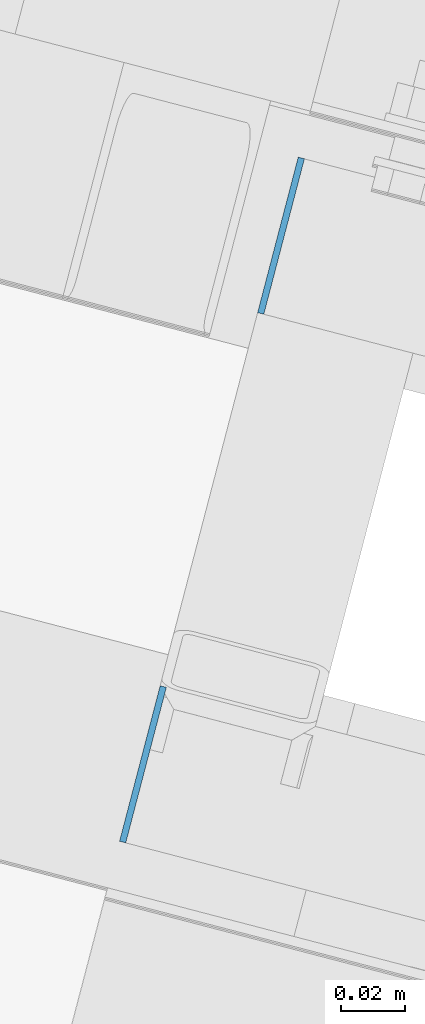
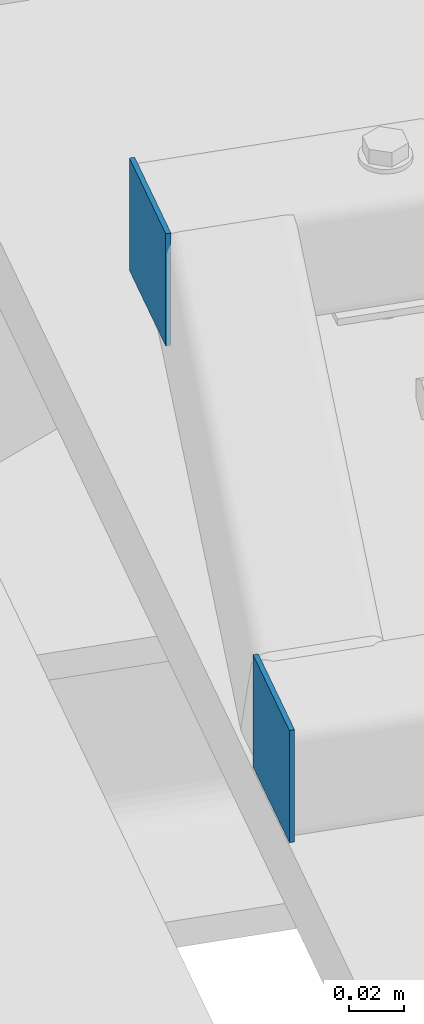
# One storey, part 31 of 169: 2 plates, 2 elements without a shape of their own.
"""IFC2X3 building model written with IfcOpenShell, lengths in millimetres."""

from ifc_helpers import new_model, si_unit, frame, origin_with_axes, place, context, subcontext, project, spatial, polyline, outline, extrude, material, type_object, element, aggregate, save


model = new_model("IFC2X3")

# Units and contexts
model_context = context("Model", 3, precision=1e-05, world=origin_with_axes())
body_context = subcontext(model_context, "Body", "Model", "MODEL_VIEW")
ifc_project = project(units=[si_unit("LENGTHUNIT", "METRE", prefix="MILLI"), si_unit("AREAUNIT", "SQUARE_METRE"), si_unit("VOLUMEUNIT", "CUBIC_METRE"), si_unit("MASSUNIT", "GRAM", prefix="KILO"), si_unit("TIMEUNIT", "SECOND"), si_unit("PLANEANGLEUNIT", "RADIAN"), si_unit("SOLIDANGLEUNIT", "STERADIAN"), si_unit("THERMODYNAMICTEMPERATUREUNIT", "DEGREE_CELSIUS"), si_unit("LUMINOUSINTENSITYUNIT", "LUMEN")], contexts=[model_context])

# Site, building, storey
site_placement = place(None, origin_with_axes())
site = spatial("IfcSite", under=ifc_project, at=site_placement, Name="Undefined", CompositionType="ELEMENT")
building_placement = place(site_placement, origin_with_axes())
building = spatial("IfcBuilding", under=site, at=building_placement, Name="Undefined", CompositionType="ELEMENT")
storey_placement = place(building_placement, origin_with_axes())
storey = spatial("IfcBuildingStorey", under=building, at=storey_placement, Name="Undefined", CompositionType="ELEMENT", Elevation=0.0)

# Assembly, plate
assembly_1_placement = place(storey_placement, origin_with_axes())
assembly_1 = element("IfcElementAssembly", 1, at=assembly_1_placement, inside=storey, Name="Steel Assembly", AssemblyPlace="NOTDEFINED", PredefinedType="RIGID_FRAME")
ifc_material = material(Name="STEEL/S235")
plate_type = type_object("IfcPlateType", Name="BL2*50", PredefinedType="NOTDEFINED")
plate_1_placement = place(assembly_1_placement, frame((-27965.2502973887, 7230.68119734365, 13373.9640442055), z_axis=(0.96754609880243, -0.252694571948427, 0.0), x_axis=(-0.252694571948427, -0.96754609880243, 0.0)))
plate_1 = element("IfcPlate", 2, at=plate_1_placement, type_object=plate_type, material=ifc_material, Name="KRATA", ObjectType="BL2*50", context=body_context, shape_type="SweptSolid", body=[
    extrude(outline(polyline([(0.0, 0.0), (50.0439682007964, 2.27373675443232e-10), (50.0439682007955, 49.9988174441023), (0.0440182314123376, 49.9988174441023), (0.0, 0.0)])), frame((0.0, 0.0, -1.0), z_axis=(0.0, 0.0, 1.0), x_axis=(1.0, 0.0, 0.0)), (0.0, 0.0, 1.0), 2.0),
])
aggregate(assembly_1, [plate_1])

assembly_2_placement = place(storey_placement, origin_with_axes())
assembly_2 = element("IfcElementAssembly", 3, at=assembly_2_placement, inside=storey, Name="Steel Assembly", AssemblyPlace="NOTDEFINED", PredefinedType="RIGID_FRAME")
plate_2_placement = place(assembly_2_placement, frame((-27922.2517663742, 7395.31892819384, 13480.2004559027), z_axis=(0.96754609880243, -0.252694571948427, 0.0), x_axis=(-0.252694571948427, -0.96754609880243, 0.0)))
plate_2 = element("IfcPlate", 4, at=plate_2_placement, type_object=plate_type, material=ifc_material, Name="KRATA", ObjectType="BL2*50", context=body_context, shape_type="SweptSolid", body=[
    extrude(outline(polyline([(0.0, 0.0), (50.0439682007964, 2.27373675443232e-10), (50.0439682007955, 49.9988174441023), (0.0440182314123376, 49.9988174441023), (0.0, 0.0)])), frame((0.0, 0.0, -1.0), z_axis=(0.0, 0.0, 1.0), x_axis=(1.0, 0.0, 0.0)), (0.0, 0.0, 1.0), 2.0),
])
aggregate(assembly_2, [plate_2])

save(model, "model.ifc")
